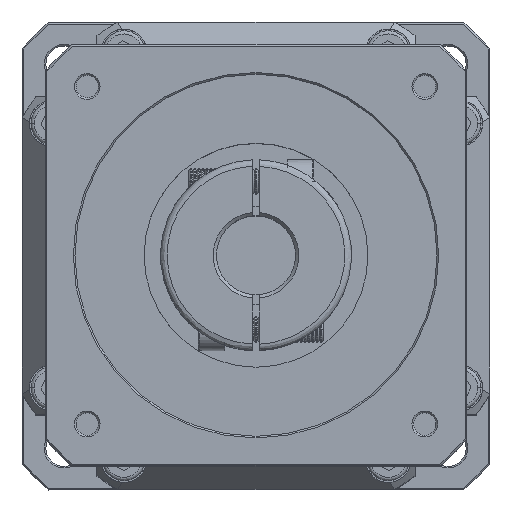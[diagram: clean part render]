
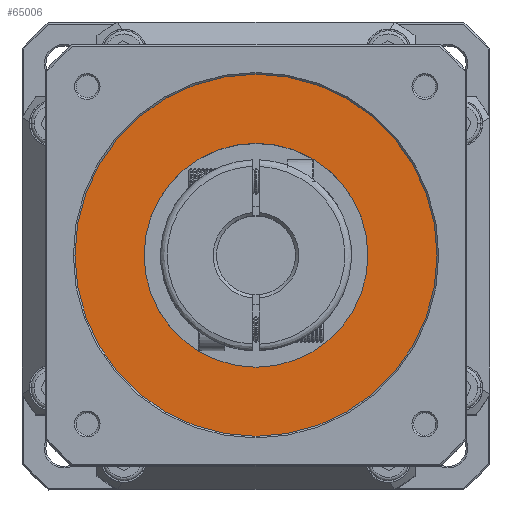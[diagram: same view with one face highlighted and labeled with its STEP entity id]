
A CAD part, top view. The second image highlights one B-rep face of the part: STEP entity #65006.
In plain terms, the highlighted planar face has unit normal (0, 0, -1).
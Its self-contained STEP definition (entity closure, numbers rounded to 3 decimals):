
#5362 = CARTESIAN_POINT ( 'NONE',  ( -34., 0., 175.5 ) ) ;
#7515 = VERTEX_POINT ( 'NONE', #62367 ) ;
#9868 = ORIENTED_EDGE ( 'NONE', *, *, #65486, .T. ) ;
#10513 = CIRCLE ( 'NONE', #51108, 55. ) ;
#10719 = FACE_BOUND ( 'NONE', #50491, .T. ) ;
#13907 = VERTEX_POINT ( 'NONE', #38712 ) ;
#14972 = AXIS2_PLACEMENT_3D ( 'NONE', #67455, #19695, #75547 ) ;
#17817 = CARTESIAN_POINT ( 'NONE',  ( 0., 0., 175.5 ) ) ;
#19695 = DIRECTION ( 'NONE',  ( 0., 0., 1. ) ) ;
#22718 = CIRCLE ( 'NONE', #14972, 34. ) ;
#23664 = AXIS2_PLACEMENT_3D ( 'NONE', #44913, #100750, #52915 ) ;
#24528 = CARTESIAN_POINT ( 'NONE',  ( 34., 0., 175.5 ) ) ;
#24794 = CARTESIAN_POINT ( 'NONE',  ( -55.66, -55.66, 175.5 ) ) ;
#25819 = DIRECTION ( 'NONE',  ( 1., 0., 0. ) ) ;
#32783 = DIRECTION ( 'NONE',  ( 1., 0., 0. ) ) ;
#33090 = EDGE_CURVE ( 'NONE', #13907, #7515, #10513, .T. ) ;
#33832 = ORIENTED_EDGE ( 'NONE', *, *, #33090, .T. ) ;
#34830 = EDGE_LOOP ( 'NONE', ( #33832, #63179 ) ) ;
#35087 = CIRCLE ( 'NONE', #23664, 55. ) ;
#38712 = CARTESIAN_POINT ( 'NONE',  ( 55., 0., 175.5 ) ) ;
#40531 = CIRCLE ( 'NONE', #87231, 34. ) ;
#42110 = EDGE_CURVE ( 'NONE', #52312, #61988, #22718, .T. ) ;
#42307 = EDGE_CURVE ( 'NONE', #7515, #13907, #35087, .T. ) ;
#43821 = CARTESIAN_POINT ( 'NONE',  ( 0., 0., 175.5 ) ) ;
#44913 = CARTESIAN_POINT ( 'NONE',  ( 0., 0., 175.5 ) ) ;
#50491 = EDGE_LOOP ( 'NONE', ( #52987, #9868 ) ) ;
#51108 = AXIS2_PLACEMENT_3D ( 'NONE', #17817, #73680, #25819 ) ;
#51829 = DIRECTION ( 'NONE',  ( -1., 0., 0. ) ) ;
#52312 = VERTEX_POINT ( 'NONE', #5362 ) ;
#52915 = DIRECTION ( 'NONE',  ( 1., 0., 0. ) ) ;
#52987 = ORIENTED_EDGE ( 'NONE', *, *, #42110, .T. ) ;
#57103 = AXIS2_PLACEMENT_3D ( 'NONE', #24794, #80652, #32783 ) ;
#61988 = VERTEX_POINT ( 'NONE', #24528 ) ;
#62367 = CARTESIAN_POINT ( 'NONE',  ( -55., 0., 175.5 ) ) ;
#63179 = ORIENTED_EDGE ( 'NONE', *, *, #42307, .T. ) ;
#65006 = ADVANCED_FACE ( 'NONE', ( #10719, #74379 ), #96394, .F. ) ;
#65486 = EDGE_CURVE ( 'NONE', #61988, #52312, #40531, .T. ) ;
#67455 = CARTESIAN_POINT ( 'NONE',  ( 0., 0., 175.5 ) ) ;
#73680 = DIRECTION ( 'NONE',  ( 0., 0., -1. ) ) ;
#74379 = FACE_OUTER_BOUND ( 'NONE', #34830, .T. ) ;
#75547 = DIRECTION ( 'NONE',  ( -1., 0., 0. ) ) ;
#80652 = DIRECTION ( 'NONE',  ( 0., 0., 1. ) ) ;
#87231 = AXIS2_PLACEMENT_3D ( 'NONE', #43821, #99670, #51829 ) ;
#96394 = PLANE ( 'NONE',  #57103 ) ;
#99670 = DIRECTION ( 'NONE',  ( 0., 0., 1. ) ) ;
#100750 = DIRECTION ( 'NONE',  ( 0., 0., -1. ) ) ;
